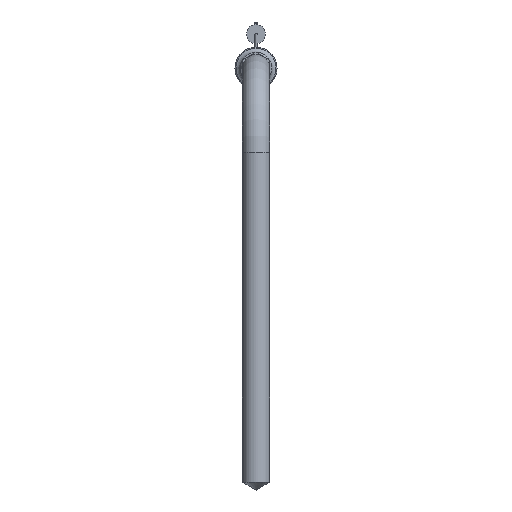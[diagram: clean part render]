
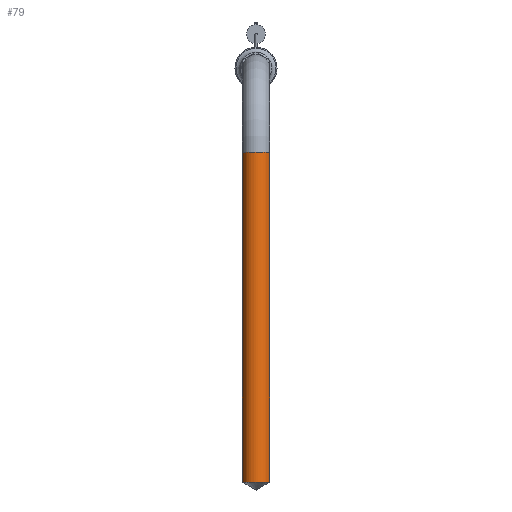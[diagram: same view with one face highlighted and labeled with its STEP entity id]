
A CAD part, top view. The second image highlights one B-rep face of the part: STEP entity #79.
In plain terms, the highlighted cylindrical face has radius 3.2 mm (diameter 6.4 mm), a full revolution.
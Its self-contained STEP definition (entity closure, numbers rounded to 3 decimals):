
#79 = ADVANCED_FACE ( 'NONE', ( #349, #1212 ), #2065, .T. ) ;
#120 = CARTESIAN_POINT ( 'NONE',  ( 0., -20., 30. ) ) ;
#257 = DIRECTION ( 'NONE',  ( -1., 0., 0. ) ) ;
#349 = FACE_OUTER_BOUND ( 'NONE', #1582, .T. ) ;
#470 = CARTESIAN_POINT ( 'NONE',  ( 0., -20., 30. ) ) ;
#481 = VERTEX_POINT ( 'NONE', #675 ) ;
#484 = DIRECTION ( 'NONE',  ( 0., 1., 0. ) ) ;
#515 = CIRCLE ( 'NONE', #1146, 3.2 ) ;
#675 = CARTESIAN_POINT ( 'NONE',  ( -3.2, -20., 30. ) ) ;
#700 = AXIS2_PLACEMENT_3D ( 'NONE', #120, #1255, #987 ) ;
#746 = AXIS2_PLACEMENT_3D ( 'NONE', #470, #1338, #257 ) ;
#841 = CIRCLE ( 'NONE', #746, 3.2 ) ;
#987 = DIRECTION ( 'NONE',  ( 0., 0., 1. ) ) ;
#1122 = ORIENTED_EDGE ( 'NONE', *, *, #2629, .T. ) ;
#1146 = AXIS2_PLACEMENT_3D ( 'NONE', #1309, #484, #2641 ) ;
#1212 = FACE_OUTER_BOUND ( 'NONE', #2174, .T. ) ;
#1255 = DIRECTION ( 'NONE',  ( 0., -1., 0. ) ) ;
#1309 = CARTESIAN_POINT ( 'NONE',  ( 0., -98.16, 30. ) ) ;
#1333 = CARTESIAN_POINT ( 'NONE',  ( 0., -98.16, 33.2 ) ) ;
#1338 = DIRECTION ( 'NONE',  ( 0., -1., 0. ) ) ;
#1582 = EDGE_LOOP ( 'NONE', ( #2209 ) ) ;
#2065 = CYLINDRICAL_SURFACE ( 'NONE', #700, 3.2 ) ;
#2173 = VERTEX_POINT ( 'NONE', #1333 ) ;
#2174 = EDGE_LOOP ( 'NONE', ( #1122 ) ) ;
#2209 = ORIENTED_EDGE ( 'NONE', *, *, #2579, .T. ) ;
#2579 = EDGE_CURVE ( 'NONE', #2173, #2173, #515, .T. ) ;
#2629 = EDGE_CURVE ( 'NONE', #481, #481, #841, .T. ) ;
#2641 = DIRECTION ( 'NONE',  ( 0., 0., 1. ) ) ;
